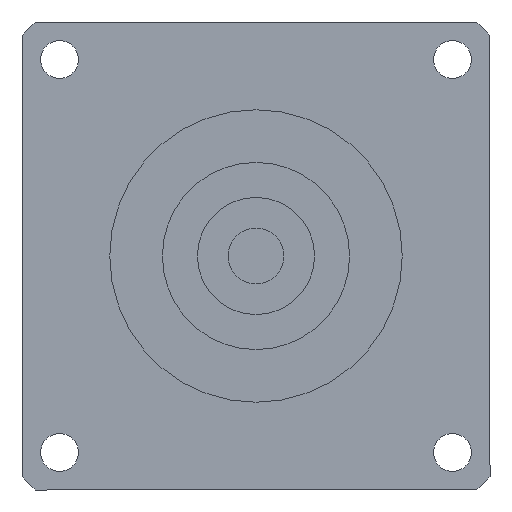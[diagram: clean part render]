
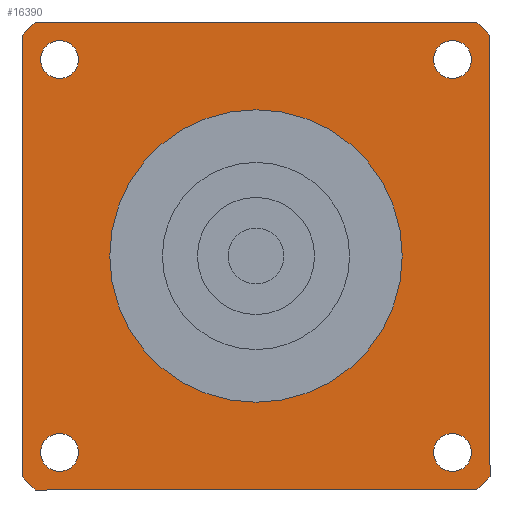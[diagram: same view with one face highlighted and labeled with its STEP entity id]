
A CAD part, left-side view. The second image highlights one B-rep face of the part: STEP entity #16390.
In plain terms, the highlighted planar face has unit normal (-1, 0, 0) as drawn and (0, 0, -1) by its records, which use the part's own axes.
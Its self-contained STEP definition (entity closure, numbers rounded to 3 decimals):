
#12010=CARTESIAN_POINT('',(-37.749,40.,-93.));
#12020=VERTEX_POINT('',#12010);
#12180=CARTESIAN_POINT('',(-40.,37.749,-93.));
#12190=VERTEX_POINT('',#12180);
#12220=CARTESIAN_POINT('',(0.,0.,
-93.));
#12230=DIRECTION('',(0.,0.,1.));
#12240=DIRECTION('',(0.,-1.,0.));
#12250=AXIS2_PLACEMENT_3D('',#12220,#12230,#12240);
#12260=CIRCLE('',#12250,55.);
#12270=EDGE_CURVE('',#12020,#12190,#12260,.T.);
#12500=CARTESIAN_POINT('',(-40.,-37.749,-93.));
#12510=VERTEX_POINT('',#12500);
#12540=CARTESIAN_POINT('',(-40.,40.,-93.));
#12550=DIRECTION('',(0.,-1.,0.));
#12560=VECTOR('',#12550,1000.);
#12570=LINE('',#12540,#12560);
#12580=EDGE_CURVE('',#12190,#12510,#12570,.T.);
#14390=CARTESIAN_POINT('',(37.749,40.,-93.));
#14400=VERTEX_POINT('',#14390);
#14450=CARTESIAN_POINT('',(40.,40.,-93.));
#14460=DIRECTION('',(-1.,0.,0.));
#14470=VECTOR('',#14460,1000.);
#14480=LINE('',#14450,#14470);
#14490=EDGE_CURVE('',#14400,#12020,#14480,.T.);
#14600=CARTESIAN_POINT('',(0.,0.,
-93.));
#14610=DIRECTION('',(0.,0.,1.));
#14620=DIRECTION('',(0.,-1.,0.));
#14630=AXIS2_PLACEMENT_3D('',#14600,#14610,#14620);
#14640=CIRCLE('',#14630,55.);
#14650=CARTESIAN_POINT('',(40.,37.749,-93.));
#14660=VERTEX_POINT('',#14650);
#14670=EDGE_CURVE('',#14660,#14400,#14640,.T.);
#14880=CARTESIAN_POINT('',(40.,-37.749,-93.));
#14890=VERTEX_POINT('',#14880);
#14940=CARTESIAN_POINT('',(40.,-40.,-93.));
#14950=DIRECTION('',(0.,1.,0.));
#14960=VECTOR('',#14950,1000.);
#14970=LINE('',#14940,#14960);
#14980=EDGE_CURVE('',#14890,#14660,#14970,.T.);
#15140=CARTESIAN_POINT('',(-37.749,-40.,-93.));
#15150=VERTEX_POINT('',#15140);
#15180=CARTESIAN_POINT('',(0.,0.,
-93.));
#15190=DIRECTION('',(0.,0.,1.));
#15200=DIRECTION('',(0.,-1.,0.));
#15210=AXIS2_PLACEMENT_3D('',#15180,#15190,#15200);
#15220=CIRCLE('',#15210,55.);
#15230=EDGE_CURVE('',#12510,#15150,#15220,.T.);
#15280=CARTESIAN_POINT('',(-40.,40.,-93.));
#15290=DIRECTION('',(0.,0.,1.));
#15300=DIRECTION('',(-1.,0.,0.));
#15310=AXIS2_PLACEMENT_3D('',#15280,#15290,#15300);
#15320=PLANE('',#15310);
#15330=CARTESIAN_POINT('',(33.588,-33.588,-93.));
#15340=DIRECTION('',(0.,0.,-1.));
#15350=DIRECTION('',(1.,0.,0.));
#15360=AXIS2_PLACEMENT_3D('',#15330,#15340,#15350);
#15370=CIRCLE('',#15360,3.25);
#15380=CARTESIAN_POINT('',(36.838,-33.588,-93.));
#15390=VERTEX_POINT('',#15380);
#15400=CARTESIAN_POINT('',(33.588,-36.838,-93.));
#15410=VERTEX_POINT('',#15400);
#15420=EDGE_CURVE('',#15390,#15410,#15370,.T.);
#15430=ORIENTED_EDGE('',*,*,#15420,.F.);
#15440=CARTESIAN_POINT('',(33.588,-30.338,-93.));
#15450=VERTEX_POINT('',#15440);
#15460=EDGE_CURVE('',#15410,#15450,#15370,.T.);
#15470=ORIENTED_EDGE('',*,*,#15460,.F.);
#15480=EDGE_CURVE('',#15450,#15390,#15370,.T.);
#15490=ORIENTED_EDGE('',*,*,#15480,.F.);
#15500=EDGE_LOOP('',(#15490,#15470,#15430));
#15510=FACE_BOUND('',#15500,.T.);
#15520=CARTESIAN_POINT('',(33.588,33.588,-93.));
#15530=DIRECTION('',(0.,0.,-1.));
#15540=DIRECTION('',(0.,1.,0.));
#15550=AXIS2_PLACEMENT_3D('',#15520,#15530,#15540);
#15560=CIRCLE('',#15550,3.25);
#15570=CARTESIAN_POINT('',(33.588,36.838,-93.));
#15580=VERTEX_POINT('',#15570);
#15590=CARTESIAN_POINT('',(36.838,33.588,-93.));
#15600=VERTEX_POINT('',#15590);
#15610=EDGE_CURVE('',#15580,#15600,#15560,.T.);
#15620=ORIENTED_EDGE('',*,*,#15610,.F.);
#15630=CARTESIAN_POINT('',(30.338,33.588,-93.));
#15640=VERTEX_POINT('',#15630);
#15650=EDGE_CURVE('',#15600,#15640,#15560,.T.);
#15660=ORIENTED_EDGE('',*,*,#15650,.F.);
#15670=EDGE_CURVE('',#15640,#15580,#15560,.T.);
#15680=ORIENTED_EDGE('',*,*,#15670,.F.);
#15690=EDGE_LOOP('',(#15680,#15660,#15620));
#15700=FACE_BOUND('',#15690,.T.);
#15710=CARTESIAN_POINT('',(-33.588,33.588,-93.));
#15720=DIRECTION('',(0.,0.,-1.));
#15730=DIRECTION('',(-1.,0.,0.));
#15740=AXIS2_PLACEMENT_3D('',#15710,#15720,#15730);
#15750=CIRCLE('',#15740,3.25);
#15760=CARTESIAN_POINT('',(-33.588,36.838,-93.));
#15770=VERTEX_POINT('',#15760);
#15780=CARTESIAN_POINT('',(-33.588,30.338,-93.));
#15790=VERTEX_POINT('',#15780);
#15800=EDGE_CURVE('',#15770,#15790,#15750,.T.);
#15810=ORIENTED_EDGE('',*,*,#15800,.F.);
#15820=EDGE_CURVE('',#15790,#15770,#15750,.T.);
#15830=ORIENTED_EDGE('',*,*,#15820,.F.);
#15840=EDGE_LOOP('',(#15830,#15810));
#15850=FACE_BOUND('',#15840,.T.);
#15860=CARTESIAN_POINT('',(-33.588,-33.588,-93.));
#15870=DIRECTION('',(0.,0.,-1.));
#15880=DIRECTION('',(0.,-1.,0.));
#15890=AXIS2_PLACEMENT_3D('',#15860,#15870,#15880);
#15900=CIRCLE('',#15890,3.25);
#15910=CARTESIAN_POINT('',(-36.838,-33.588,-93.));
#15920=VERTEX_POINT('',#15910);
#15930=CARTESIAN_POINT('',(-30.338,-33.588,-93.));
#15940=VERTEX_POINT('',#15930);
#15950=EDGE_CURVE('',#15920,#15940,#15900,.T.);
#15960=ORIENTED_EDGE('',*,*,#15950,.F.);
#15970=EDGE_CURVE('',#15940,#15920,#15900,.T.);
#15980=ORIENTED_EDGE('',*,*,#15970,.F.);
#15990=EDGE_LOOP('',(#15980,#15960));
#16000=FACE_BOUND('',#15990,.T.);
#16010=ORIENTED_EDGE('',*,*,#15230,.F.);
#16020=CARTESIAN_POINT('',(-40.,-40.,-93.));
#16030=DIRECTION('',(1.,0.,0.));
#16040=VECTOR('',#16030,1000.);
#16050=LINE('',#16020,#16040);
#16060=CARTESIAN_POINT('',(37.749,-40.,-93.));
#16070=VERTEX_POINT('',#16060);
#16080=EDGE_CURVE('',#15150,#16070,#16050,.T.);
#16090=ORIENTED_EDGE('',*,*,#16080,.F.);
#16100=CARTESIAN_POINT('',(0.,0.,
-93.));
#16110=DIRECTION('',(0.,0.,1.));
#16120=DIRECTION('',(0.,-1.,0.));
#16130=AXIS2_PLACEMENT_3D('',#16100,#16110,#16120);
#16140=CIRCLE('',#16130,55.);
#16150=EDGE_CURVE('',#16070,#14890,#16140,.T.);
#16160=ORIENTED_EDGE('',*,*,#16150,.F.);
#16170=ORIENTED_EDGE('',*,*,#14980,.F.);
#16180=ORIENTED_EDGE('',*,*,#14670,.F.);
#16190=ORIENTED_EDGE('',*,*,#14490,.F.);
#16200=ORIENTED_EDGE('',*,*,#12270,.F.);
#16210=ORIENTED_EDGE('',*,*,#12580,.F.);
#16220=EDGE_LOOP('',(#16210,#16200,#16190,#16180,#16170,#16160,#16090,
#16010));
#16230=FACE_OUTER_BOUND('',#16220,.T.);
#16240=CARTESIAN_POINT('',(0.,0.,
-93.));
#16250=DIRECTION('',(0.,0.,1.));
#16260=DIRECTION('',(0.,-1.,0.));
#16270=AXIS2_PLACEMENT_3D('',#16240,#16250,#16260);
#16280=CIRCLE('',#16270,25.);
#16290=CARTESIAN_POINT('',(-25.,0.,-93.));
#16300=VERTEX_POINT('',#16290);
#16310=CARTESIAN_POINT('',(25.,0.,-93.));
#16320=VERTEX_POINT('',#16310);
#16330=EDGE_CURVE('',#16300,#16320,#16280,.T.);
#16340=ORIENTED_EDGE('',*,*,#16330,.T.);
#16350=EDGE_CURVE('',#16320,#16300,#16280,.T.);
#16360=ORIENTED_EDGE('',*,*,#16350,.T.);
#16370=EDGE_LOOP('',(#16360,#16340));
#16380=FACE_BOUND('',#16370,.T.);
#16390=ADVANCED_FACE('',(#15510,#15700,#15850,#16000,#16230,#16380),
#15320,.F.);
